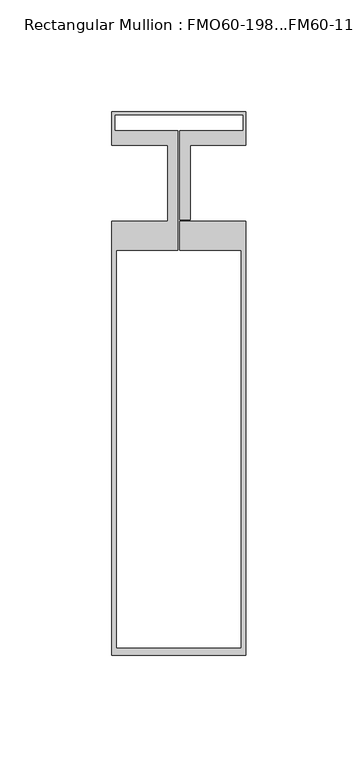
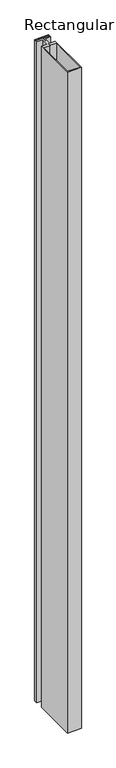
"""IFC4 building model written with IfcOpenShell, lengths in millimetres: member geometry, Rectangular Mullion : FMO60-198...FM60-11."""

from ifc_helpers import new_model, si_unit, frame, origin, place, context, project, spatial, polyline, outline, extrude, source, transform, mapped, element, save


def rectangular_mullion_fmo60_198_fm60_11_775ce3b2(model_context):
    return source(origin(), model_context, "Body", "SweptSolid", [
        extrude(outline(polyline([(30.0, -16.9999336), (30.0, -210.9989914), (-30.0, -210.9989914), (-30.0, -16.9999336), (-4.9995097, -16.9999336), (-4.9995097, 17.0000664), (-30.0, 17.0000664), (-30.0, 32.0039104), (30.0, 32.0039104), (30.0, 17.0000664), (5.0, 17.0000664), (5.0, -16.1999336), (0.5, -16.1999336), (0.5, 23.4439745), (28.7000412, 23.4439745), (28.7000412, 30.7039104), (-28.7000412, 30.7039104), (-28.7000412, 23.4439745), (-0.5, 23.4439745), (-0.5, -29.9945136), (-28.0, -29.9945136), (-28.0, -207.9989914), (28.0, -207.9989914), (28.0, -29.9945136), (0.5, -29.9945136), (0.5, -16.9999336), (30.0, -16.9999336)])), frame((0.0, 0.0, -3000.0), z_axis=(0.0, 0.0, 1.0), x_axis=(1.0, 0.0, 0.0)), (0.0, 0.0, 1.0), 3000.0),
    ])


if __name__ == "__main__":
    model = new_model("IFC4")
    model_context = context("Model", 3, world=origin())
    ifc_project = project(units=[si_unit("LENGTHUNIT", "METRE", prefix="MILLI")], contexts=[model_context])
    site = spatial("IfcSite", under=ifc_project)
    building = spatial("IfcBuilding", under=site)
    placement = place(None, origin())
    rectangular_mullion_fmo60_198_fm60_11_shape = rectangular_mullion_fmo60_198_fm60_11_775ce3b2(model_context)
    element("IfcMember", 1, ObjectType="Rectangular Mullion : FMO60-198...FM60-11", at=placement, inside=building, context=model_context, shape_type="MappedRepresentation", body=[
        mapped(rectangular_mullion_fmo60_198_fm60_11_shape, transform((0.0, 0.0, 0.0), x_axis=(1.0, 0.0, 0.0), y_axis=(0.0, 1.0, 0.0), z_axis=(0.0, 0.0, 1.0))),
    ])
    save(model, "model.ifc")
